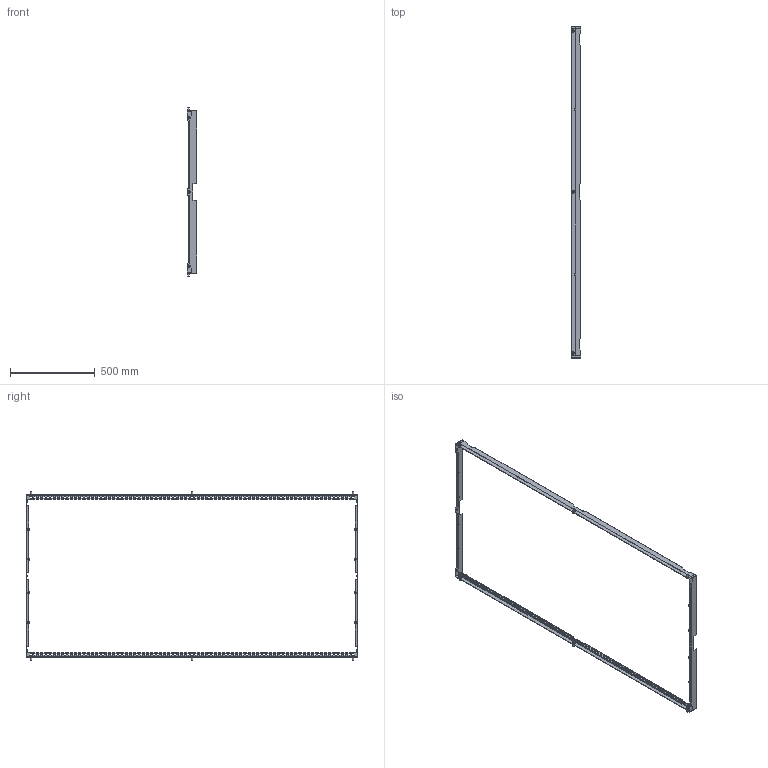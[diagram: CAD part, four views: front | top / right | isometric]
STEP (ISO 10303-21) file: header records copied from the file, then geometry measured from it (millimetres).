
FILE_DESCRIPTION (( 'STEP AP203' ), '1' );
FILE_NAME ('R6IP20100.step', '2025-07-11T08:11:12', ( '' ), ( '' ), 'SwSTEP 2.0', 'SolidWorks 2022', '' );
FILE_SCHEMA (( 'CONFIG_CONTROL_DESIGN' ));
Length unit declared in the file: millimetre
Products named in the file (9): M8x20 DIN 6921 cl.8,8 Zinc_straight; R6IP20100; RB.3320.00.02.0_-05; Pressing nut М6 S-M6-1; RB.3321.00.01.0_-02; RB.3320.00.00.0 СБ_-05; M6 DIN 6923 cl.8,0 Zinc_straight; RB.3320.00.01.0_-05; RB.3321.00.00.0 СБ_-02
Assembly tree (25 placements, depth 3):
  R6IP20100
    RB.3320.00.00.0 СБ_-05  x2
      RB.3320.00.01.0_-05
      RB.3320.00.02.0_-05
    RB.3321.00.00.0 СБ_-02  x2
      RB.3321.00.01.0_-02
      Pressing nut М6 S-M6-1
    M6 DIN 6923 cl.8,0 Zinc_straight  x7
    M8x20 DIN 6921 cl.8,8 Zinc_straight  x7
Bounding box: 57.66 x 1957.6 x 993.2 mm (x, y, z)
Volume: 669193 mm3; surface area: 1064824.2 mm2
Topology: 28 solids, 28 shells, 5854 faces, 17007 edges, 11228 vertices
Faces by surface type: plane 4227, cylinder 1371, cone 151, bspline 84, torus 21
Full cylindrical faces by diameter (mm): 5 x15, 6 x7, 8 x13, 8.73 x8, 8.85 x8, 11.1 x8
Entity records: 78575 total; most frequent: CARTESIAN_POINT 14229, ORIENTED_EDGE 13408, DIRECTION 12606, EDGE_CURVE 6704, LINE 5208, VECTOR 5208, VERTEX_POINT 4456, AXIS2_PLACEMENT_3D 3699
